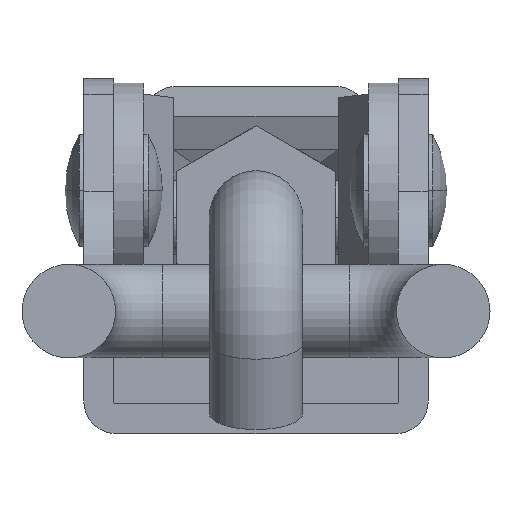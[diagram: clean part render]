
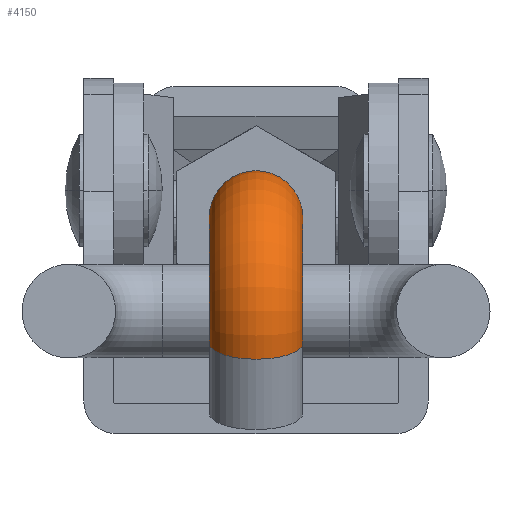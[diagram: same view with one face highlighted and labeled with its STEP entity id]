
A CAD part, front view. The second image highlights one B-rep face of the part: STEP entity #4150.
In plain terms, the highlighted toroidal (fillet/blend) face has major radius 10 mm and minor radius 5 mm.
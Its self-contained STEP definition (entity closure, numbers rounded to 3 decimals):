
#4086=CARTESIAN_POINT('Cartesian Point',(-5.,-33.402,9.68)) ;
#4093=CARTESIAN_POINT('Cartesian Point',(5.,-33.402,9.68)) ;
#4108=CARTESIAN_POINT('Axis2P3D Location',(0.,-33.402,9.68)) ;
#4120=CARTESIAN_POINT('Axis2P3D Location',(0.,-24.005,13.1)) ;
#4125=CARTESIAN_POINT('Axis2P3D Location',(5.,-24.005,13.1)) ;
#4129=CARTESIAN_POINT('Cartesian Point',(5.,-24.005,23.1)) ;
#4132=CARTESIAN_POINT('Axis2P3D Location',(0.,-24.005,23.1)) ;
#4136=CARTESIAN_POINT('Cartesian Point',(-5.,-24.005,23.1)) ;
#4139=CARTESIAN_POINT('Axis2P3D Location',(-5.,-24.005,13.1)) ;
#4109=DIRECTION('Axis2P3D Direction',(0.,-0.342,0.94)) ;
#4121=DIRECTION('Axis2P3D Direction',(-1.,0.,0.)) ;
#4122=DIRECTION('Axis2P3D XDirection',(0.,-0.94,-0.342)) ;
#4126=DIRECTION('Axis2P3D Direction',(-1.,0.,0.)) ;
#4133=DIRECTION('Axis2P3D Direction',(0.,-1.,0.)) ;
#4140=DIRECTION('Axis2P3D Direction',(-1.,0.,0.)) ;
#4110=AXIS2_PLACEMENT_3D('Circle Axis2P3D',#4108,#4109,$) ;
#4123=AXIS2_PLACEMENT_3D('Torus Axis2P3D',#4120,#4121,#4122) ;
#4127=AXIS2_PLACEMENT_3D('Circle Axis2P3D',#4125,#4126,$) ;
#4134=AXIS2_PLACEMENT_3D('Circle Axis2P3D',#4132,#4133,$) ;
#4141=AXIS2_PLACEMENT_3D('Circle Axis2P3D',#4139,#4140,$) ;
#4145=ORIENTED_EDGE('Oriented Edge',*,*,#4112,.T.) ;
#4146=ORIENTED_EDGE('Oriented Edge',*,*,#4131,.T.) ;
#4147=ORIENTED_EDGE('Oriented Edge',*,*,#4138,.T.) ;
#4148=ORIENTED_EDGE('Oriented Edge',*,*,#4143,.F.) ;
#4150=ADVANCED_FACE('',(#4149),#4124,.T.) ;
#4111=CIRCLE('generated circle',#4110,5.) ;
#4128=CIRCLE('generated circle',#4127,10.) ;
#4135=CIRCLE('generated circle',#4134,5.) ;
#4142=CIRCLE('generated circle',#4141,10.) ;
#4124=TOROIDAL_SURFACE('homeo Torus',#4123,10.,5.) ;
#4112=EDGE_CURVE('',#4087,#4094,#4111,.T.) ;
#4131=EDGE_CURVE('',#4094,#4130,#4128,.T.) ;
#4138=EDGE_CURVE('',#4130,#4137,#4135,.T.) ;
#4143=EDGE_CURVE('',#4087,#4137,#4142,.T.) ;
#4144=EDGE_LOOP('Oriented Loop',(#4145,#4146,#4147,#4148)) ;
#4149=FACE_OUTER_BOUND('Face Bound',#4144,.T.) ;
#4087=VERTEX_POINT('Vertex Point',#4086) ;
#4094=VERTEX_POINT('Vertex Point',#4093) ;
#4130=VERTEX_POINT('Vertex Point',#4129) ;
#4137=VERTEX_POINT('Vertex Point',#4136) ;
